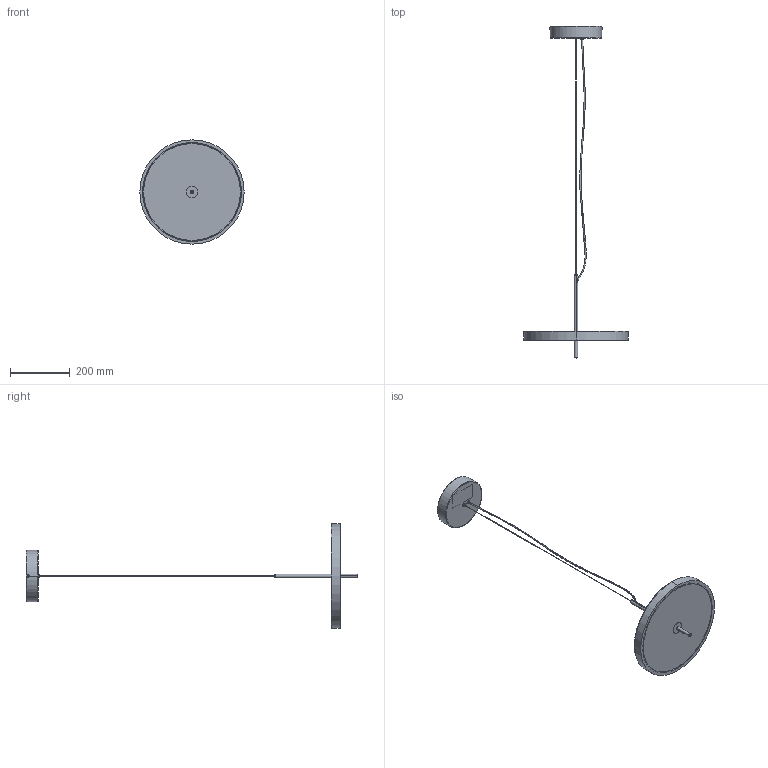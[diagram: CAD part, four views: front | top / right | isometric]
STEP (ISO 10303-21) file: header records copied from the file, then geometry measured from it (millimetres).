
FILE_DESCRIPTION (( 'STEP AP203' ), '1' );
FILE_NAME ('SN.S035_Conjunt SPIN Penjanr Ø350mm_forma.STEP', '2025-07-08T11:27:26', ( '' ), ( '' ), 'SwSTEP 2.0', 'SolidWorks 2013', '' );
FILE_SCHEMA (( 'CONFIG_CONTROL_DESIGN' ));
Length unit declared in the file: millimetre
Products named in the file (16): GI450_Tub Ø12x70_M10x1; MS050_Pasacable abierto _11x_4_498070.STEP; OF032_Driver SS-30-24 LB; KO219_Cable elèctric spin gran; KO020 - SUSPENSOR M10; KO019_CABLE ACER x800; PP050_Difusor amb lli Ø330; GI449_Tija superior Ø12x190 ranura lat. M10x1_pasØ2; AR077_FLORON Ø172x40 (forat addicional); GI444_Tapa Ø345 fixació LED; SN.S035_Conjunt SPIN Penjanr Ø350mm_forma; AG019_M4x8; PP049_Difusor amb lli Ø324; AR059-travesaño reforzado 165x20 2xM4; FU036_Anell Spin Ø350x31mm; GI451_Arandela Ø50 pas 10
Assembly tree (17 placements, depth 2):
  SN.S035_Conjunt SPIN Penjanr Ø350mm_forma
    FU036_Anell Spin Ø350x31mm
    GI444_Tapa Ø345 fixació LED
    PP050_Difusor amb lli Ø330
    PP049_Difusor amb lli Ø324
    GI450_Tub Ø12x70_M10x1
    GI449_Tija superior Ø12x190 ranura lat. M10x1_pasØ2
    GI451_Arandela Ø50 pas 10  x2
    KO019_CABLE ACER x800
    KO219_Cable elèctric spin gran
    AR077_FLORON Ø172x40 (forat addicional)
    KO020 - SUSPENSOR M10
    AR059-travesaño reforzado 165x20 2xM4
    AG019_M4x8  x2
    OF032_Driver SS-30-24 LB
    MS050_Pasacable abierto _11x_4_498070.STEP
Bounding box: 350 x 1114 x 350 mm (x, y, z)
Volume: 1029204.3 mm3; surface area: 671346.6 mm2
Topology: 17 solids, 17 shells, 274 faces, 607 edges, 386 vertices
Faces by surface type: plane 131, cylinder 123, torus 8, bspline 6, cone 6
Entity records: 9594 total; most frequent: CARTESIAN_POINT 1970, DIRECTION 1323, ORIENTED_EDGE 1130, EDGE_CURVE 565, AXIS2_PLACEMENT_3D 523, VERTEX_POINT 360, EDGE_LOOP 307, LINE 277
